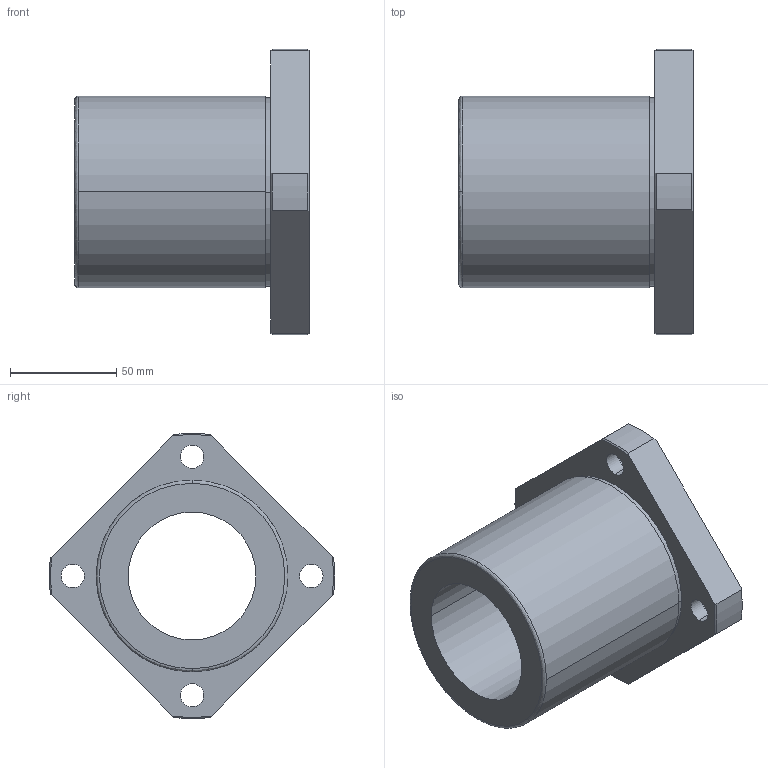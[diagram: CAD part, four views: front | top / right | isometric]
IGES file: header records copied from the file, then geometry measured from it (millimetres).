
Start section: 3D InterOp IGES (Version 21 0 1), Spatial Corp. Copyright (c) 1999-2007.
Global section: file name: NF-60VUU.igs; native system: Spatial Corp.; preprocessor: 3D InterOp GENERIC/IGES 3.0; author: Noname; organization: Noname; date: 20220308.153846; units: millimetre
Bounding box: 110 x 133.94 x 133.88 mm (x, y, z)
Surface area: 72949.1 mm2 (no closed solid volume)
Topology: 0 solids, 0 shells, 51 faces, 256 edges, 256 vertices
Faces by surface type: revolution 39, extrusion 12
